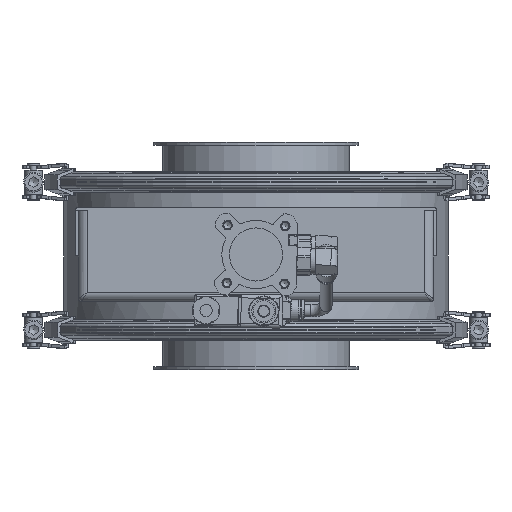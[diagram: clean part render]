
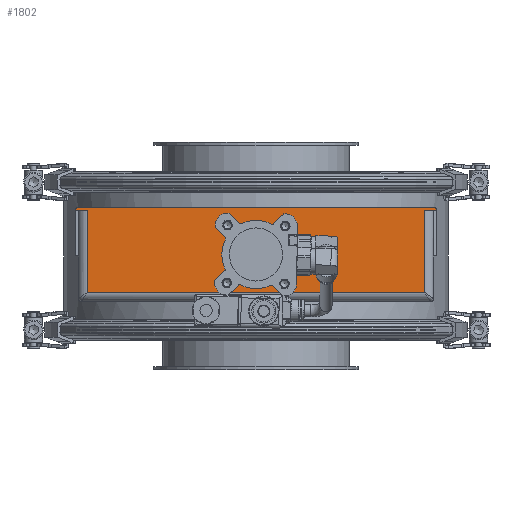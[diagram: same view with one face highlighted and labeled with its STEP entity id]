
A CAD part, left-side view. The second image highlights one B-rep face of the part: STEP entity #1802.
In plain terms, the highlighted planar face has unit normal (-1, 0, 0).
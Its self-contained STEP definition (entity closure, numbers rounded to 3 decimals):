
#859=CARTESIAN_POINT('',(-404.096,-111.,-24.));
#860=VERTEX_POINT('',#859);
#900=CARTESIAN_POINT('',(-404.096,-111.,30.));
#901=VERTEX_POINT('',#900);
#909=CARTESIAN_POINT('',(-404.096,-111.,30.));
#910=DIRECTION('',(0.0,0.0,-1.0));
#911=VECTOR('',#910,54.0);
#912=LINE('',#909,#911);
#913=EDGE_CURVE('',#901,#860,#912,.T.);
#965=CARTESIAN_POINT('',(-404.096,111.,-24.));
#966=VERTEX_POINT('',#965);
#990=CARTESIAN_POINT('',(-404.096,-111.,-24.));
#991=DIRECTION('',(0.0,1.0,0.0));
#992=VECTOR('',#991,222.0);
#993=LINE('',#990,#992);
#994=EDGE_CURVE('',#860,#966,#993,.T.);
#1012=CARTESIAN_POINT('',(-404.096,111.,30.));
#1013=VERTEX_POINT('',#1012);
#1014=CARTESIAN_POINT('',(-404.096,111.,-24.0));
#1015=DIRECTION('',(0.0,0.0,1.0));
#1016=VECTOR('',#1015,54.0);
#1017=LINE('',#1014,#1016);
#1018=EDGE_CURVE('',#966,#1013,#1017,.T.);
#1261=CARTESIAN_POINT('',(-404.096,19.,-14.25));
#1262=VERTEX_POINT('',#1261);
#1263=CARTESIAN_POINT('',(-404.096,19.,-18.0));
#1264=DIRECTION('',(1.0,0.0,0.0));
#1265=DIRECTION('',(0.0,0.0,1.0));
#1266=AXIS2_PLACEMENT_3D('',#1263,#1264,#1265);
#1267=CIRCLE('',#1266,3.75);
#1268=EDGE_CURVE('',#1262,#1262,#1267,.T.);
#1310=CARTESIAN_POINT('',(-404.096,-19.,23.75));
#1311=VERTEX_POINT('',#1310);
#1312=CARTESIAN_POINT('',(-404.096,-19.,20.0));
#1313=DIRECTION('',(1.0,0.0,0.0));
#1314=DIRECTION('',(0.0,0.0,1.0));
#1315=AXIS2_PLACEMENT_3D('',#1312,#1313,#1314);
#1316=CIRCLE('',#1315,3.75);
#1317=EDGE_CURVE('',#1311,#1311,#1316,.T.);
#1359=CARTESIAN_POINT('',(-404.096,-19.,-14.25));
#1360=VERTEX_POINT('',#1359);
#1361=CARTESIAN_POINT('',(-404.096,-19.,-18.0));
#1362=DIRECTION('',(1.0,0.0,0.0));
#1363=DIRECTION('',(0.0,0.0,1.0));
#1364=AXIS2_PLACEMENT_3D('',#1361,#1362,#1363);
#1365=CIRCLE('',#1364,3.75);
#1366=EDGE_CURVE('',#1360,#1360,#1365,.T.);
#1408=CARTESIAN_POINT('',(-404.096,19.,23.75));
#1409=VERTEX_POINT('',#1408);
#1410=CARTESIAN_POINT('',(-404.096,19.,20.0));
#1411=DIRECTION('',(1.0,0.0,0.0));
#1412=DIRECTION('',(0.0,0.0,1.0));
#1413=AXIS2_PLACEMENT_3D('',#1410,#1411,#1412);
#1414=CIRCLE('',#1413,3.75);
#1415=EDGE_CURVE('',#1409,#1409,#1414,.T.);
#1457=CARTESIAN_POINT('',(-404.096,0.,19.5));
#1458=VERTEX_POINT('',#1457);
#1459=CARTESIAN_POINT('',(-404.096,0.,1.));
#1460=DIRECTION('',(1.0,0.0,0.0));
#1461=DIRECTION('',(0.0,0.0,1.0));
#1462=AXIS2_PLACEMENT_3D('',#1459,#1460,#1461);
#1463=CIRCLE('',#1462,18.5);
#1464=EDGE_CURVE('',#1458,#1458,#1463,.T.);
#1505=CARTESIAN_POINT('',(-404.096,119.,30.0));
#1506=VERTEX_POINT('',#1505);
#1507=CARTESIAN_POINT('',(-404.096,119.,30.0));
#1508=DIRECTION('',(0.0,-1.0,0.0));
#1509=VECTOR('',#1508,8.);
#1510=LINE('',#1507,#1509);
#1511=EDGE_CURVE('',#1506,#1013,#1510,.T.);
#1709=CARTESIAN_POINT('',(-404.096,-117.,32.0));
#1710=VERTEX_POINT('',#1709);
#1711=CARTESIAN_POINT('',(-404.096,-119.,30.0));
#1712=VERTEX_POINT('',#1711);
#1713=CARTESIAN_POINT('',(-404.096,-117.,30.0));
#1714=DIRECTION('',(1.0,0.0,0.0));
#1715=DIRECTION('',(0.0,-0.707,0.707));
#1716=AXIS2_PLACEMENT_3D('',#1713,#1714,#1715);
#1717=CIRCLE('',#1716,2.);
#1718=EDGE_CURVE('',#1710,#1712,#1717,.T.);
#1754=CARTESIAN_POINT('',(-404.096,-119.,30.0));
#1755=DIRECTION('',(-1.0,0.0,0.0));
#1756=DIRECTION('',(0.0,0.0,1.0));
#1757=AXIS2_PLACEMENT_3D('',#1754,#1755,#1756);
#1758=PLANE('',#1757);
#1759=CARTESIAN_POINT('',(-404.096,-111.,30.0));
#1760=DIRECTION('',(0.0,-1.0,0.0));
#1761=VECTOR('',#1760,8.0);
#1762=LINE('',#1759,#1761);
#1763=EDGE_CURVE('',#901,#1712,#1762,.T.);
#1764=ORIENTED_EDGE('',*,*,#1763,.T.);
#1765=ORIENTED_EDGE('',*,*,#1718,.F.);
#1766=CARTESIAN_POINT('',(-404.096,117.,32.0));
#1767=VERTEX_POINT('',#1766);
#1768=CARTESIAN_POINT('',(-404.096,-117.,32.0));
#1769=DIRECTION('',(0.0,1.0,0.0));
#1770=VECTOR('',#1769,234.0);
#1771=LINE('',#1768,#1770);
#1772=EDGE_CURVE('',#1710,#1767,#1771,.T.);
#1773=ORIENTED_EDGE('',*,*,#1772,.T.);
#1774=CARTESIAN_POINT('',(-404.096,117.,30.0));
#1775=DIRECTION('',(1.0,0.0,0.0));
#1776=DIRECTION('',(0.0,0.707,0.707));
#1777=AXIS2_PLACEMENT_3D('',#1774,#1775,#1776);
#1778=CIRCLE('',#1777,2.);
#1779=EDGE_CURVE('',#1506,#1767,#1778,.T.);
#1780=ORIENTED_EDGE('',*,*,#1779,.F.);
#1781=ORIENTED_EDGE('',*,*,#1511,.T.);
#1782=ORIENTED_EDGE('',*,*,#1018,.F.);
#1783=ORIENTED_EDGE('',*,*,#994,.F.);
#1784=ORIENTED_EDGE('',*,*,#913,.F.);
#1785=EDGE_LOOP('',(#1764,#1765,#1773,#1780,#1781,#1782,#1783,#1784));
#1786=FACE_OUTER_BOUND('',#1785,.T.);
#1787=ORIENTED_EDGE('',*,*,#1268,.T.);
#1788=EDGE_LOOP('',(#1787));
#1789=FACE_BOUND('',#1788,.T.);
#1790=ORIENTED_EDGE('',*,*,#1317,.T.);
#1791=EDGE_LOOP('',(#1790));
#1792=FACE_BOUND('',#1791,.T.);
#1793=ORIENTED_EDGE('',*,*,#1366,.T.);
#1794=EDGE_LOOP('',(#1793));
#1795=FACE_BOUND('',#1794,.T.);
#1796=ORIENTED_EDGE('',*,*,#1415,.T.);
#1797=EDGE_LOOP('',(#1796));
#1798=FACE_BOUND('',#1797,.T.);
#1799=ORIENTED_EDGE('',*,*,#1464,.T.);
#1800=EDGE_LOOP('',(#1799));
#1801=FACE_BOUND('',#1800,.T.);
#1802=ADVANCED_FACE('',(#1786,#1789,#1792,#1795,#1798,#1801),#1758,.T.);
